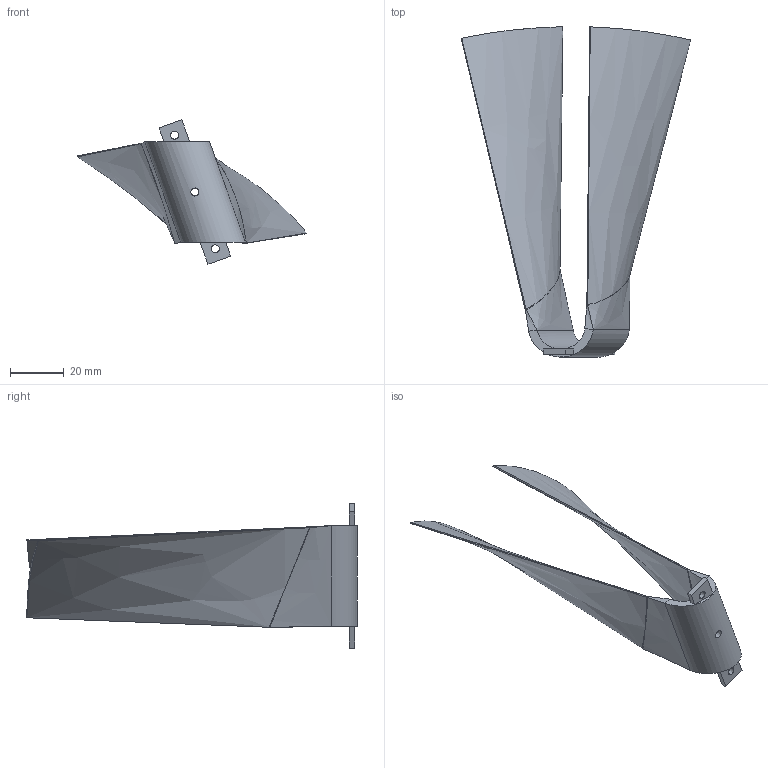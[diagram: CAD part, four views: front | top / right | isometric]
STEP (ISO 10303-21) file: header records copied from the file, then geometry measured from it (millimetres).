
FILE_DESCRIPTION(('CATIA V5 STEP Exchange','CAx-IF Rec.Pracs.--- Model Styling and Organization---1.5--- 2016-08-15','CAx-IF Rec.Pracs.---Supplemental Geometry---1.0---2011-11-01','CAx-IF Rec.Pracs.--- Composite Materials ---1.1---2010-07-15','CAx-IF Rec.Pracs.---External References---2.1---2005-01-19'),'2;1');
FILE_NAME('E:\WAT\Sprezarka\122_00_00_Tlocznik2\Tlocznik2_KPL\Tlocznik2_stp\Lopatka_pogrub4,5_gotowa.stp','2023-08-01T08:40:10+00:00',('none'),('none'),'CATIA Version 5-6 Release 2022 SP3','CATIA V5 STEP AP214 v2','none');
FILE_SCHEMA(('AUTOMOTIVE_DESIGN { 1 0 10303 214 1 1 1 1 }'));
Length unit declared in the file: millimetre
Products named in the file (1): Lopatka_pogrub4,5_gotowa
Bounding box: 85.48 x 123.07 x 53.87 mm (x, y, z)
Volume: 21011.7 mm3; surface area: 22281.4 mm2
Topology: 1 solids, 1 shells, 48 faces, 181 edges, 135 vertices
Faces by surface type: bspline 26, plane 12, extrusion 6, cylinder 4
Entity records: 3351 total; most frequent: CARTESIAN_POINT 2062, ORIENTED_EDGE 362, EDGE_CURVE 181, VERTEX_POINT 135, B_SPLINE_CURVE_WITH_KNOTS 134, DIRECTION 82, EDGE_LOOP 54, ADVANCED_FACE 48
